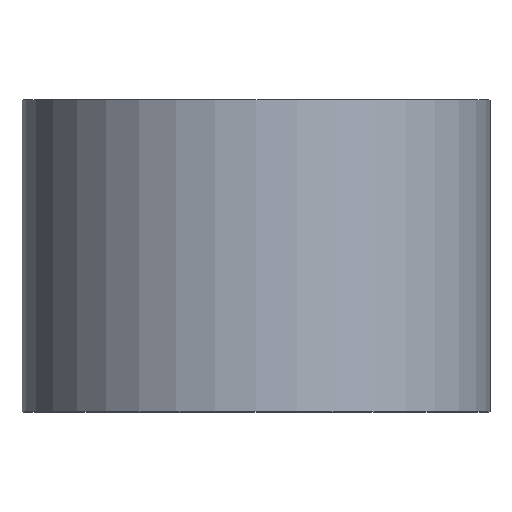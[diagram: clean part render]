
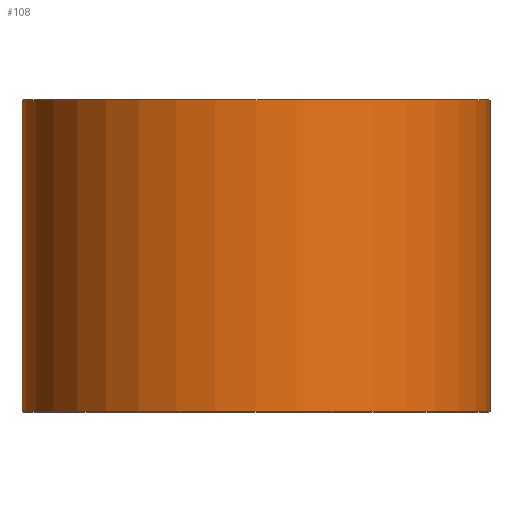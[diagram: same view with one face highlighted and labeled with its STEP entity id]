
A CAD part, top view. The second image highlights one B-rep face of the part: STEP entity #108.
In plain terms, the highlighted cylindrical face has radius 9 mm (diameter 18 mm), a partial arc.
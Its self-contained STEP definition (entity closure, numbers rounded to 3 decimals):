
#6 = DIRECTION ( 'NONE',  ( -1., 0., 0. ) ) ;
#26 = CARTESIAN_POINT ( 'NONE',  ( 9., 0., 0. ) ) ;
#27 = CARTESIAN_POINT ( 'NONE',  ( 0., 12., 0. ) ) ;
#50 = DIRECTION ( 'NONE',  ( 0., 1., 0. ) ) ;
#54 = VERTEX_POINT ( 'NONE', #182 ) ;
#62 = ORIENTED_EDGE ( 'NONE', *, *, #276, .T. ) ;
#102 = CARTESIAN_POINT ( 'NONE',  ( 0., 0., 0. ) ) ;
#108 = ADVANCED_FACE ( 'NONE', ( #177 ), #226, .T. ) ;
#116 = AXIS2_PLACEMENT_3D ( 'NONE', #140, #210, #190 ) ;
#119 = VECTOR ( 'NONE', #214, 1000. ) ;
#120 = CARTESIAN_POINT ( 'NONE',  ( -9., 12., 0. ) ) ;
#130 = AXIS2_PLACEMENT_3D ( 'NONE', #27, #187, #297 ) ;
#136 = EDGE_CURVE ( 'NONE', #161, #54, #169, .T. ) ;
#140 = CARTESIAN_POINT ( 'NONE',  ( 0., 0., 0. ) ) ;
#142 = VERTEX_POINT ( 'NONE', #120 ) ;
#146 = ORIENTED_EDGE ( 'NONE', *, *, #136, .T. ) ;
#152 = EDGE_CURVE ( 'NONE', #254, #142, #291, .T. ) ;
#156 = ORIENTED_EDGE ( 'NONE', *, *, #152, .F. ) ;
#161 = VERTEX_POINT ( 'NONE', #26 ) ;
#169 = LINE ( 'NONE', #259, #119 ) ;
#177 = FACE_OUTER_BOUND ( 'NONE', #237, .T. ) ;
#182 = CARTESIAN_POINT ( 'NONE',  ( 9., 12., 0. ) ) ;
#186 = EDGE_CURVE ( 'NONE', #142, #54, #269, .T. ) ;
#187 = DIRECTION ( 'NONE',  ( 0., 1., 0. ) ) ;
#190 = DIRECTION ( 'NONE',  ( -1., 0., 0. ) ) ;
#197 = DIRECTION ( 'NONE',  ( 0., 1., 0. ) ) ;
#210 = DIRECTION ( 'NONE',  ( 0., 1., 0. ) ) ;
#214 = DIRECTION ( 'NONE',  ( 0., 1., 0. ) ) ;
#216 = ORIENTED_EDGE ( 'NONE', *, *, #186, .F. ) ;
#226 = CYLINDRICAL_SURFACE ( 'NONE', #116, 9. ) ;
#231 = CIRCLE ( 'NONE', #251, 9. ) ;
#237 = EDGE_LOOP ( 'NONE', ( #62, #146, #216, #156 ) ) ;
#251 = AXIS2_PLACEMENT_3D ( 'NONE', #102, #197, #6 ) ;
#254 = VERTEX_POINT ( 'NONE', #263 ) ;
#257 = CARTESIAN_POINT ( 'NONE',  ( -9., 0., 0. ) ) ;
#259 = CARTESIAN_POINT ( 'NONE',  ( 9., 0., 0. ) ) ;
#263 = CARTESIAN_POINT ( 'NONE',  ( -9., 0., 0. ) ) ;
#269 = CIRCLE ( 'NONE', #130, 9. ) ;
#276 = EDGE_CURVE ( 'NONE', #254, #161, #231, .T. ) ;
#289 = VECTOR ( 'NONE', #50, 1000. ) ;
#291 = LINE ( 'NONE', #257, #289 ) ;
#297 = DIRECTION ( 'NONE',  ( -1., 0., 0. ) ) ;
